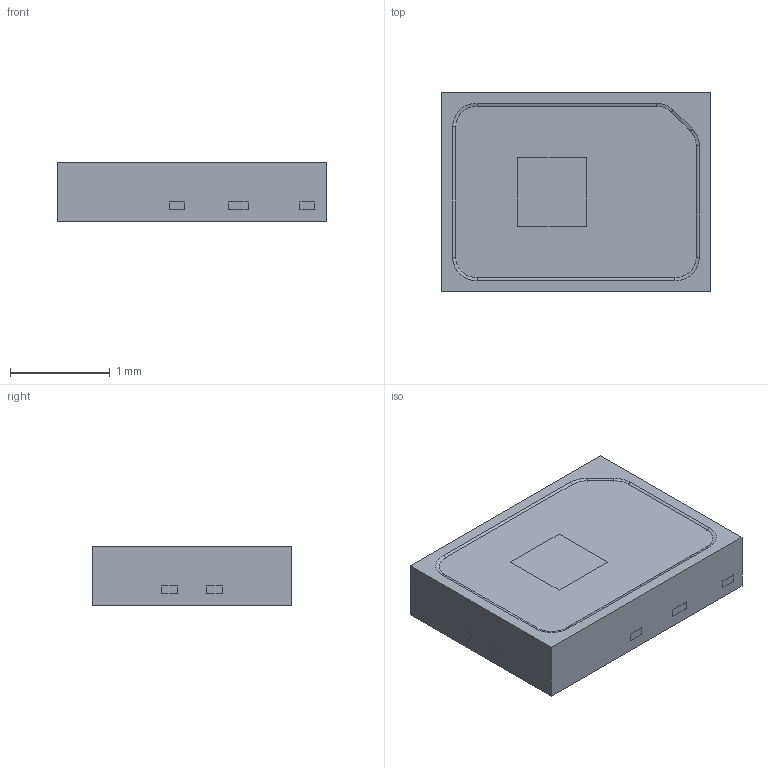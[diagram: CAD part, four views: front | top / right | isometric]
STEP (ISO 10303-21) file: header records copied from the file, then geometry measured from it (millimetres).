
FILE_DESCRIPTION (( 'STEP AP214' ), '1' );
FILE_NAME ('LWJB.STEP', '2025-04-03T00:29:14', ( '' ), ( '' ), 'SwSTEP 2.0', 'SolidWorks 2022', '' );
FILE_SCHEMA (( 'AUTOMOTIVE_DESIGN' ));
Length unit declared in the file: millimetre
Products named in the file (1): LWJB
Bounding box: 2.7 x 2 x 0.6 mm (x, y, z)
Surface area: 46 mm2 (no closed solid volume)
Topology: 0 solids, 6 shells, 187 faces, 574 edges, 392 vertices
Faces by surface type: plane 101, cylinder 76, bspline 10
Entity records: 9205 total; most frequent: CARTESIAN_POINT 1917, ORIENTED_EDGE 1144, DIRECTION 1006, EDGE_CURVE 574, VERTEX_POINT 392, LINE 364, VECTOR 364, AXIS2_PLACEMENT_3D 321
